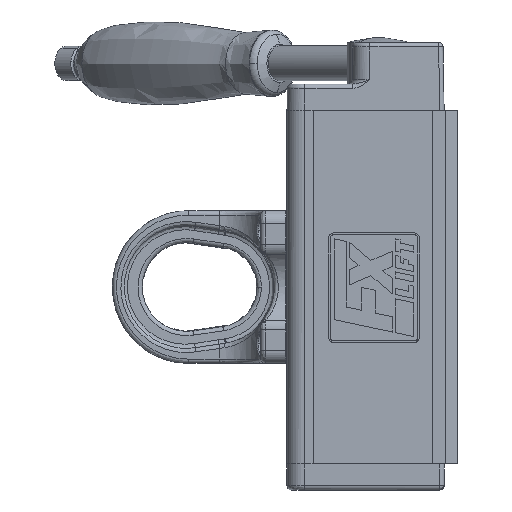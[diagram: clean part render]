
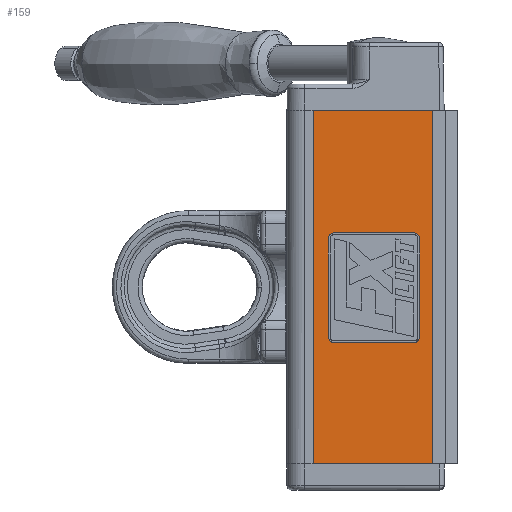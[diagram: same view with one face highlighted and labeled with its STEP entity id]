
A CAD part, left-side view. The second image highlights one B-rep face of the part: STEP entity #159.
In plain terms, the highlighted planar face has unit normal (-1, 0, 0).
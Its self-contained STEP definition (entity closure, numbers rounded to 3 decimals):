
#159=ADVANCED_FACE('NONE',(#1587,#1588),#1589,.F.);
#1587=FACE_OUTER_BOUND('',#4987,.T.);
#1588=FACE_BOUND('',#4988,.T.);
#1589=PLANE('',#4989);
#4987=EDGE_LOOP('',(#42228,#42229,#42230,#42231));
#4988=EDGE_LOOP('',(#42232,#42233,#42234,#42235,#42236,#42237,#42238,#42239));
#4989=AXIS2_PLACEMENT_3D('',#42240,#42241,#42242);
#42228=ORIENTED_EDGE('',*,*,#50852,.T.);
#42229=ORIENTED_EDGE('',*,*,#50853,.F.);
#42230=ORIENTED_EDGE('',*,*,#50854,.F.);
#42231=ORIENTED_EDGE('',*,*,#50855,.T.);
#42232=ORIENTED_EDGE('',*,*,#50856,.T.);
#42233=ORIENTED_EDGE('',*,*,#50857,.T.);
#42234=ORIENTED_EDGE('',*,*,#50858,.T.);
#42235=ORIENTED_EDGE('',*,*,#50859,.T.);
#42236=ORIENTED_EDGE('',*,*,#50860,.T.);
#42237=ORIENTED_EDGE('',*,*,#50861,.T.);
#42238=ORIENTED_EDGE('',*,*,#50862,.T.);
#42239=ORIENTED_EDGE('',*,*,#50863,.T.);
#42240=CARTESIAN_POINT('',(-42.0,0.,81.0));
#42241=DIRECTION('',(1.0,0.,0.));
#42242=DIRECTION('',(0.0,1.0,0.));
#50852=EDGE_CURVE('NONE',#54539,#54540,#54541,.T.);
#50853=EDGE_CURVE('NONE',#54542,#54540,#54543,.T.);
#50854=EDGE_CURVE('NONE',#54544,#54542,#54545,.T.);
#50855=EDGE_CURVE('NONE',#54544,#54539,#54546,.T.);
#50856=EDGE_CURVE('NONE',#54547,#54548,#54549,.T.);
#50857=EDGE_CURVE('NONE',#54548,#54550,#54551,.T.);
#50858=EDGE_CURVE('NONE',#54550,#54552,#54553,.T.);
#50859=EDGE_CURVE('NONE',#54552,#54554,#54555,.T.);
#50860=EDGE_CURVE('NONE',#54554,#54556,#54557,.T.);
#50861=EDGE_CURVE('NONE',#54556,#54558,#54559,.T.);
#50862=EDGE_CURVE('NONE',#54558,#54560,#54561,.T.);
#50863=EDGE_CURVE('NONE',#54560,#54547,#54562,.T.);
#54539=VERTEX_POINT('NONE',#61702);
#54540=VERTEX_POINT('NONE',#61703);
#54541=LINE('',#61704,#61705);
#54542=VERTEX_POINT('NONE',#61706);
#54543=LINE('',#61707,#61708);
#54544=VERTEX_POINT('NONE',#61709);
#54545=LINE('',#61710,#61711);
#54546=LINE('',#61712,#61713);
#54547=VERTEX_POINT('NONE',#61714);
#54548=VERTEX_POINT('NONE',#61715);
#54549=B_SPLINE_CURVE_WITH_KNOTS('',3,(#61716,#61717,#61718,#61719),.UNSPECIFIED.,.F.,.F.,(4,4),(0.778,1.0),.UNSPECIFIED.);
#54550=VERTEX_POINT('NONE',#61720);
#54551=LINE('',#61721,#61722);
#54552=VERTEX_POINT('NONE',#61723);
#54553=B_SPLINE_CURVE_WITH_KNOTS('',3,(#61724,#61725,#61726,#61727),.UNSPECIFIED.,.F.,.F.,(4,4),(0.111,0.222),.UNSPECIFIED.);
#54554=VERTEX_POINT('NONE',#61728);
#54555=LINE('',#61729,#61730);
#54556=VERTEX_POINT('NONE',#61731);
#54557=B_SPLINE_CURVE_WITH_KNOTS('',3,(#61732,#61733,#61734,#61735),.UNSPECIFIED.,.F.,.F.,(4,4),(0.333,0.444),.UNSPECIFIED.);
#54558=VERTEX_POINT('NONE',#61736);
#54559=LINE('',#61737,#61738);
#54560=VERTEX_POINT('NONE',#61739);
#54561=B_SPLINE_CURVE_WITH_KNOTS('',3,(#61740,#61741,#61742,#61743),.UNSPECIFIED.,.F.,.F.,(4,4),(0.556,0.667),.UNSPECIFIED.);
#54562=LINE('',#61744,#61745);
#61702=CARTESIAN_POINT('',(-42.0,30.0,-81.0));
#61703=CARTESIAN_POINT('',(-42.0,-25.5,-81.0));
#61704=CARTESIAN_POINT('',(-42.0,0.,-81.0));
#61705=VECTOR('',#77576,1000.0);
#61706=CARTESIAN_POINT('',(-42.0,-25.5,81.0));
#61707=CARTESIAN_POINT('',(-42.0,-25.5,81.0));
#61708=VECTOR('',#77577,1000.0);
#61709=CARTESIAN_POINT('',(-42.0,30.0,81.0));
#61710=CARTESIAN_POINT('',(-42.0,0.,81.0));
#61711=VECTOR('',#77578,1000.0);
#61712=CARTESIAN_POINT('',(-42.0,30.0,81.0));
#61713=VECTOR('',#77579,1000.0);
#61714=CARTESIAN_POINT('',(-42.0,20.323,-25.505));
#61715=CARTESIAN_POINT('',(-42.0,23.121,-22.707));
#61716=CARTESIAN_POINT('',(-42.0,20.323,-25.505));
#61717=CARTESIAN_POINT('',(-42.0,21.862,-25.505));
#61718=CARTESIAN_POINT('',(-42.0,23.121,-24.246));
#61719=CARTESIAN_POINT('',(-42.0,23.121,-22.707));
#61720=CARTESIAN_POINT('',(-42.0,23.121,22.062));
#61721=CARTESIAN_POINT('',(-42.0,23.121,0.));
#61722=VECTOR('',#77580,1000.0);
#61723=CARTESIAN_POINT('',(-42.0,20.323,24.86));
#61724=CARTESIAN_POINT('',(-42.0,23.121,22.062));
#61725=CARTESIAN_POINT('',(-42.0,23.121,23.601));
#61726=CARTESIAN_POINT('',(-42.0,21.862,24.86));
#61727=CARTESIAN_POINT('',(-42.0,20.323,24.86));
#61728=CARTESIAN_POINT('',(-42.0,-16.052,24.86));
#61729=CARTESIAN_POINT('',(-42.0,0.,24.86));
#61730=VECTOR('',#77581,1000.0);
#61731=CARTESIAN_POINT('',(-42.0,-18.85,22.062));
#61732=CARTESIAN_POINT('',(-42.0,-16.052,24.86));
#61733=CARTESIAN_POINT('',(-42.0,-17.591,24.86));
#61734=CARTESIAN_POINT('',(-42.0,-18.85,23.601));
#61735=CARTESIAN_POINT('',(-42.0,-18.85,22.062));
#61736=CARTESIAN_POINT('',(-42.0,-18.85,-22.707));
#61737=CARTESIAN_POINT('',(-42.0,-18.85,0.));
#61738=VECTOR('',#77582,1000.0);
#61739=CARTESIAN_POINT('',(-42.0,-16.052,-25.505));
#61740=CARTESIAN_POINT('',(-42.0,-18.85,-22.707));
#61741=CARTESIAN_POINT('',(-42.0,-18.85,-24.246));
#61742=CARTESIAN_POINT('',(-42.0,-17.591,-25.505));
#61743=CARTESIAN_POINT('',(-42.0,-16.052,-25.505));
#61744=CARTESIAN_POINT('',(-42.0,0.,-25.505));
#61745=VECTOR('',#77583,1000.0);
#77576=DIRECTION('',(0.,-1.0,0.0));
#77577=DIRECTION('',(-0.0,-0.0,-1.0));
#77578=DIRECTION('',(0.,-1.0,0.0));
#77579=DIRECTION('',(-0.0,-0.0,-1.0));
#77580=DIRECTION('',(0.,0.,1.0));
#77581=DIRECTION('',(0.,-1.0,0.0));
#77582=DIRECTION('',(0.,0.,-1.0));
#77583=DIRECTION('',(0.,1.0,0.0));
